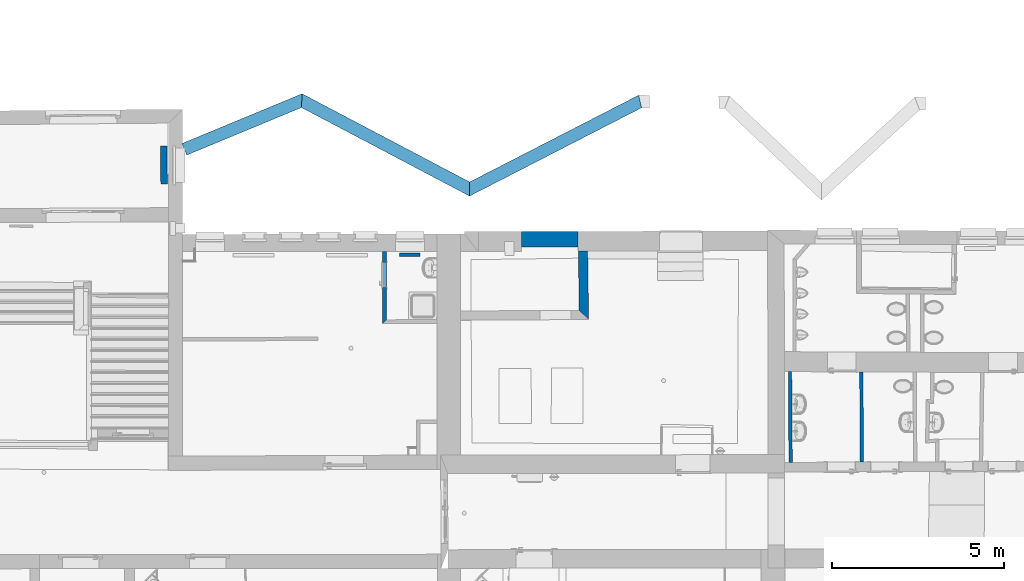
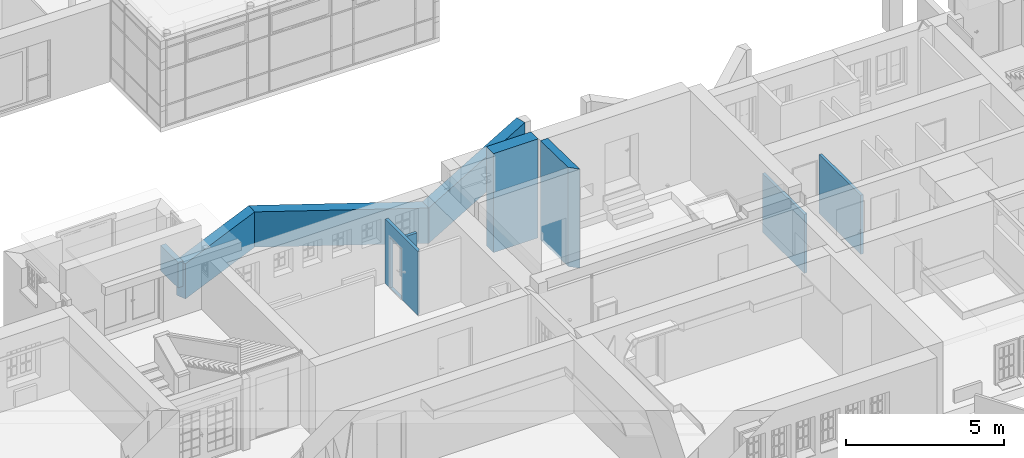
# One storey, part 46 of 196: 10 walls, 1 opening.
"""IFC2X3 building model written with IfcOpenShell, lengths in metres."""

from ifc_helpers import new_model, entity, si_unit, converted_unit, derived_unit, money_unit, direction, frame, origin_with_axes, origin_2d_with_axis, place, context, subcontext, project, spatial, polyline, rectangle, outline, extrude, material, layer, layer_set, layer_usage, type_object, element, save


model = new_model("IFC2X3")

# Units and contexts
model_context = context("Model", 3, precision=1e-05, world=origin_with_axes(), true_north=direction((0.0, 1.0)))
body_context = subcontext(model_context, "Body", "Model", "MODEL_VIEW")
ifc_project = project(units=[si_unit("LENGTHUNIT", "METRE"), si_unit("AREAUNIT", "SQUARE_METRE"), si_unit("VOLUMEUNIT", "CUBIC_METRE"), converted_unit("PLANEANGLEUNIT", "DEGREE", entity("IfcPlaneAngleMeasure", 0.0174532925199), si_unit("PLANEANGLEUNIT", "RADIAN"), dimensions=[0, 0, 0, 0, 0, 0, 0]), money_unit("EUR"), converted_unit("TIMEUNIT", "Year", entity("IfcTimeMeasure", 31556926.0), si_unit("TIMEUNIT", "SECOND"), dimensions=[0, 0, 1, 0, 0, 0, 0]), si_unit("MASSUNIT", "GRAM", prefix="KILO"), si_unit("THERMODYNAMICTEMPERATUREUNIT", "DEGREE_CELSIUS"), si_unit("LUMINOUSINTENSITYUNIT", "LUMEN"), si_unit("ENERGYUNIT", "JOULE", prefix="MEGA"), derived_unit("THERMALCONDUCTANCEUNIT", [(si_unit("POWERUNIT", "WATT"), 1), (si_unit("LENGTHUNIT", "METRE"), -1), (si_unit("THERMODYNAMICTEMPERATUREUNIT", "KELVIN"), -1)]), derived_unit("SPECIFICHEATCAPACITYUNIT", [(si_unit("ENERGYUNIT", "JOULE"), 1), (si_unit("MASSUNIT", "GRAM", prefix="KILO"), -1), (si_unit("THERMODYNAMICTEMPERATUREUNIT", "KELVIN"), -1)]), derived_unit("MASSDENSITYUNIT", [(si_unit("MASSUNIT", "GRAM", prefix="KILO"), 1), (si_unit("VOLUMEUNIT", "CUBIC_METRE"), -1)])], contexts=[model_context])

# Site, building, storey
site_placement = place(None, origin_with_axes())
site = spatial("IfcSite", under=ifc_project, at=site_placement, Name="Gelände", CompositionType="ELEMENT")
building_placement = place(site_placement, origin_with_axes())
building = spatial("IfcBuilding", under=site, at=building_placement, Name="Gebäude", CompositionType="ELEMENT")
storey_placement = place(building_placement, frame((0.0, 0.0, -3.0), z_axis=(0.0, 0.0, 1.0), x_axis=(1.0, 0.0, 0.0)))
storey = spatial("IfcBuildingStorey", under=building, at=storey_placement, Name="KELLERGESCHOSS", CompositionType="ELEMENT", Elevation=-3.0)

# Walls
ifc_material_1 = material(Name="05_ALLGEMEIN - TRAGENDE BAUTEILE")
ifc_layer_1 = layer(ifc_material_1, 0.45, ventilated="UNKNOWN")
ifc_layer_set_1 = layer_set([ifc_layer_1], Name="05_ALLGEMEIN - TRAGENDE BAUTEILE 0.45")
ifc_layer_usage_1 = layer_usage(ifc_layer_set_1, "AXIS2", "NEGATIVE", 0.45)
wall_type_1 = type_object("IfcWallType", Name="05_ALLGEMEIN - TRAGENDE BAUTEILE 450", PredefinedType="ELEMENTEDWALL")
wall_1_placement = place(storey_placement, frame((7.03171178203, 26.1935686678, -0.36), z_axis=(0.0, 0.0, 1.0), x_axis=(-0.999998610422, -0.00166707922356, 0.0)))
element("IfcWallStandardCase", 1, at=wall_1_placement, inside=storey, type_object=wall_type_1, material=ifc_layer_usage_1, Name="Wand-036", ObjectType="ELEMENTEDWALL", context=body_context, shape_type="SweptSolid", body=[
    extrude(outline(polyline([(0.0, 0.0), (1.63989169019, 0.0), (1.63989169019, 0.45), (0.0, 0.45), (0.0, 0.0)])), origin_with_axes(), (0.0, 0.0, 1.0), 3.835),
])
ifc_material_2 = material(Name="01_ALLGEMEIN - BAUTEIL")
ifc_layer_2 = layer(ifc_material_2, 0.105, ventilated="UNKNOWN")
ifc_layer_set_2 = layer_set([ifc_layer_2], Name="01_ALLGEMEIN - BAUTEIL 0.105")
ifc_layer_usage_2 = layer_usage(ifc_layer_set_2, "AXIS2", "NEGATIVE", 0.105)
wall_type_2 = type_object("IfcWallType", Name="01_ALLGEMEIN - BAUTEIL 105", PredefinedType="ELEMENTEDWALL")
wall_2_placement = place(storey_placement, frame((1.84717369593, 25.4560462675, 0.122678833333), z_axis=(0.0, 0.0, 1.0), x_axis=(0.999972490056, 0.00741748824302, 0.0)))
element("IfcWallStandardCase", 2, at=wall_2_placement, inside=storey, type_object=wall_type_2, material=ifc_layer_usage_2, Name="Wand-036", ObjectType="ELEMENTEDWALL", context=body_context, shape_type="SweptSolid", body=[
    extrude(outline(polyline([(0.0, 0.0), (0.592431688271, 0.0), (0.592431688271, 0.105), (0.0, 0.105), (0.0, 0.0)])), origin_with_axes(), (0.0, 0.0, 1.0), 1.494324),
])
ifc_material_3 = material(Name="43_Gipskarton")
ifc_layer_3 = layer(ifc_material_3, 0.1, ventilated="UNKNOWN")
ifc_layer_set_3 = layer_set([ifc_layer_3], Name="43_Gipskarton 0.1")
ifc_layer_usage_3 = layer_usage(ifc_layer_set_3, "AXIS2", "NEGATIVE", 0.0)
wall_type_3 = type_object("IfcWallType", Name="43_Gipskarton 100", PredefinedType="ELEMENTEDWALL")
wall_3_placement = place(storey_placement, frame((13.2397123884, 22.1156727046, -0.08), z_axis=(0.0, 0.0, 1.0), x_axis=(0.0072293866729, -0.999973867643, 0.0)))
element("IfcWallStandardCase", 3, at=wall_3_placement, inside=storey, type_object=wall_type_3, material=ifc_layer_usage_3, Name="Wand-038", ObjectType="ELEMENTEDWALL", context=body_context, shape_type="SweptSolid", body=[
    extrude(outline(polyline([(-0.00114346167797, -0.1), (2.63460381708, -0.1), (2.63498757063, 0.0), (0.0, 0.0), (-0.00114346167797, -0.1)])), origin_with_axes(), (0.0, 0.0, 1.0), 2.28),
])
ifc_layer_usage_4 = layer_usage(ifc_layer_set_3, "AXIS2", "NEGATIVE", 0.0)
wall_4_placement = place(storey_placement, frame((15.225513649, 19.2074234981, -0.08), z_axis=(0.0, 0.0, 1.0), x_axis=(-0.00325915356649, 0.999994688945, 0.0)))
element("IfcWallStandardCase", 4, at=wall_4_placement, inside=storey, type_object=wall_type_3, material=ifc_layer_usage_4, Name="Wand-038", ObjectType="ELEMENTEDWALL", context=body_context, shape_type="SweptSolid", body=[
    extrude(outline(polyline([(0.280013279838, -0.1), (2.8992082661, -0.1), (2.89995466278, 0.0), (0.280000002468, 0.0), (0.280013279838, -0.1)])), origin_with_axes(), (0.0, 0.0, 1.0), 2.29),
])
ifc_layer_4 = layer(ifc_material_1, 0.27, ventilated="UNKNOWN")
ifc_layer_set_4 = layer_set([ifc_layer_4], Name="05_ALLGEMEIN - TRAGENDE BAUTEILE 0.27")
ifc_layer_usage_5 = layer_usage(ifc_layer_set_4, "AXIS2", "POSITIVE", -0.27)
wall_type_4 = type_object("IfcWallType", Name="05_ALLGEMEIN - TRAGENDE BAUTEILE 270", PredefinedType="ELEMENTEDWALL")
wall_5_placement = place(storey_placement, frame((7.06814154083, 23.6296250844, -0.36), z_axis=(0.0, 0.0, 1.0), x_axis=(-0.0142070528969, 0.999899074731, 0.0)))
element("IfcWallStandardCase", 5, at=wall_5_placement, inside=storey, type_object=wall_type_4, material=ifc_layer_usage_5, Name="Wand-039", ObjectType="ELEMENTEDWALL", context=body_context, shape_type="SweptSolid", body=[
    extrude(outline(polyline([(-0.0022793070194, -0.27), (1.9907714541, -0.27), (1.99415755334, 0.0), (0.270009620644, 0.0), (-0.0022793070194, -0.27)])), origin_with_axes(), (0.0, 0.0, 1.0), 3.835),
])
ifc_layer_5 = layer(ifc_material_1, 0.365, ventilated="UNKNOWN")
ifc_layer_set_5 = layer_set([ifc_layer_5], Name="05_ALLGEMEIN - TRAGENDE BAUTEILE 0.365")
ifc_layer_usage_6 = layer_usage(ifc_layer_set_5, "AXIS2", "NEGATIVE", 0.365)
wall_type_5 = type_object("IfcWallType", Name="05_ALLGEMEIN - TRAGENDE BAUTEILE 365", PredefinedType="ELEMENTEDWALL")
wall_6_placement = place(storey_placement, frame((8.79293071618, 30.1520911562, -0.36), z_axis=(0.0, 0.0, 1.0), x_axis=(-0.889516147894, -0.45690373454, 0.0)))
element("IfcWallStandardCase", 6, at=wall_6_placement, inside=storey, type_object=wall_type_5, material=ifc_layer_usage_6, Name="Wand-035", ObjectType="ELEMENTEDWALL", context=body_context, shape_type="SweptSolid", body=[
    extrude(outline(polyline([(0.0, 0.0), (5.52282264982, 0.0), (5.71268943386, 0.365), (0.0910042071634, 0.365), (0.0, 0.0)])), origin_with_axes(), (0.0, 0.0, 1.0), 1.36684061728),
])
ifc_layer_usage_7 = layer_usage(ifc_layer_set_5, "AXIS2", "NEGATIVE", 0.365)
wall_7_placement = place(storey_placement, frame((3.88029078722, 27.6286928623, -0.36), z_axis=(0.0, 0.0, 1.0), x_axis=(-0.884761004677, 0.466045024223, 0.0)))
element("IfcWallStandardCase", 7, at=wall_7_placement, inside=storey, type_object=wall_type_5, material=ifc_layer_usage_7, Name="Wand-036", ObjectType="ELEMENTEDWALL", context=body_context, shape_type="SweptSolid", body=[
    extrude(outline(polyline([(0.0, 0.0), (5.50355189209, 0.0), (5.33222789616, 0.365), (-0.189866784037, 0.365), (0.0, 0.0)])), origin_with_axes(), (0.0, 0.0, 1.0), 1.36684061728),
])
ifc_layer_usage_8 = layer_usage(ifc_layer_set_5, "AXIS2", "NEGATIVE", 0.365)
wall_8_placement = place(storey_placement, frame((-0.989037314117, 30.1935958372, -0.36), z_axis=(0.0, 0.0, 1.0), x_axis=(-0.923805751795, -0.382861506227, 0.0)))
element("IfcWallStandardCase", 8, at=wall_8_placement, inside=storey, type_object=wall_type_5, material=ifc_layer_usage_8, Name="Wand-036", ObjectType="ELEMENTEDWALL", context=body_context, shape_type="SweptSolid", body=[
    extrude(outline(polyline([(0.0, 0.0), (3.78019832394, 0.0), (3.78019832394, 0.365), (0.171323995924, 0.365), (0.0, 0.0)])), origin_with_axes(), (0.0, 0.0, 1.0), 1.36684061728),
])

# Wall, opening
ifc_layer_6 = layer(ifc_material_3, 0.11, ventilated="UNKNOWN")
ifc_layer_set_6 = layer_set([ifc_layer_6], Name="43_Gipskarton 0.11")
ifc_layer_usage_9 = layer_usage(ifc_layer_set_6, "AXIS2", "NEGATIVE", 0.0)
wall_type_6 = type_object("IfcWallType", Name="43_Gipskarton 110", PredefinedType="ELEMENTEDWALL")
wall_9_placement = place(storey_placement, frame((1.35013617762, 23.5124330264, -0.04), z_axis=(0.0, 0.0, 1.0), x_axis=(-0.000385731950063, 0.999999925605, 0.0)))
wall_9 = element("IfcWallStandardCase", 9, at=wall_9_placement, inside=storey, type_object=wall_type_6, material=ifc_layer_usage_9, Name="Wand-039", ObjectType="ELEMENTEDWALL", context=body_context, shape_type="SweptSolid", body=[
    extrude(outline(polyline([(0.110599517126, -0.11), (2.09961154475, -0.11), (2.0995805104, 0.0), (0.0, 0.0), (0.110599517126, -0.11)])), origin_with_axes(), (0.0, 0.0, 1.0), 2.48),
])
opening_placement = place(wall_9_placement, frame((1.41617725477, 0.0, 0.00932683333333), z_axis=(0.0, 0.0, 1.0), x_axis=(1.0, 0.0, 0.0)))
element("IfcOpeningElement", 10, at=opening_placement, cuts=wall_9, Name="Tür-022", context=body_context, shape_type="SweptSolid", body=[
    extrude(rectangle(XDim=0.732787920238, YDim=1.964951, at=origin_2d_with_axis()), frame((0.0, -0.11, 0.9824755), z_axis=(0.0, 1.0, 0.0), x_axis=(1.0, 0.0, 0.0)), (0.0, 0.0, 1.0), 0.33),
])

# Wall
ifc_layer_7 = layer(ifc_material_2, 0.19, ventilated="UNKNOWN")
ifc_layer_set_7 = layer_set([ifc_layer_7], Name="01_ALLGEMEIN - BAUTEIL 0.19")
ifc_layer_usage_10 = layer_usage(ifc_layer_set_7, "AXIS2", "NEGATIVE", 0.0)
wall_type_7 = type_object("IfcWallType", Name="01_ALLGEMEIN - BAUTEIL 190", PredefinedType="ELEMENTEDWALL")
wall_10_placement = place(storey_placement, frame((-5.09694185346, 27.5705829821, 0.840935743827), z_axis=(0.0, 0.0, 1.0), x_axis=(-0.00506172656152, 0.99998718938, 0.0)))
element("IfcWallStandardCase", 11, at=wall_10_placement, inside=storey, type_object=wall_type_7, material=ifc_layer_usage_10, Name="Wand-036", ObjectType="ELEMENTEDWALL", context=body_context, shape_type="SweptSolid", body=[
    extrude(outline(polyline([(0.0, -0.19), (1.09772480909, -0.19), (1.09772480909, 0.0), (0.0, 0.0), (0.0, -0.19)])), origin_with_axes(), (0.0, 0.0, 1.0), 0.988024),
])

save(model, "model.ifc")
